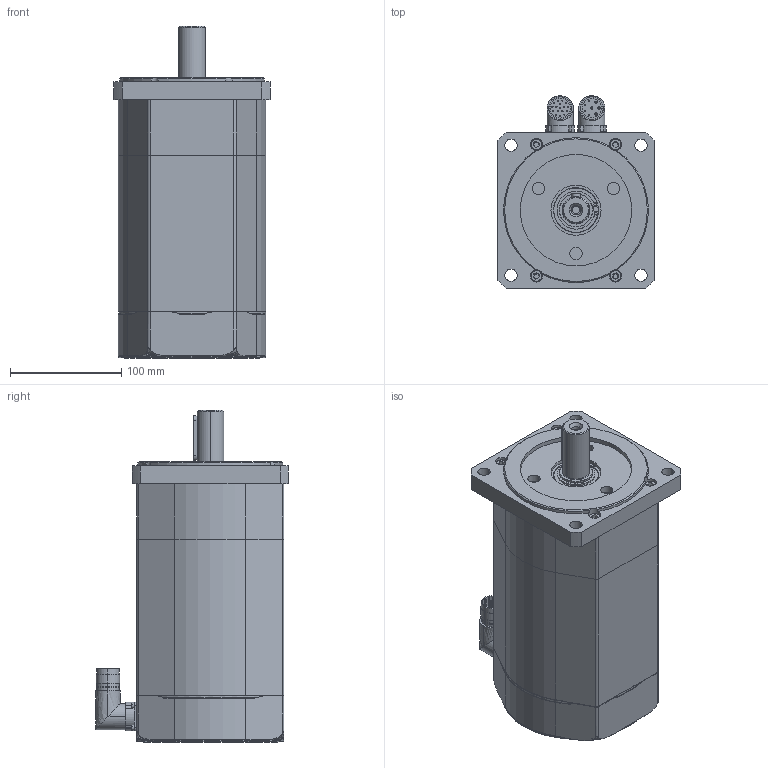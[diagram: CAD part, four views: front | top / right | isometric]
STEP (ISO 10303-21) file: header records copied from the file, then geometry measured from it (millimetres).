
FILE_DESCRIPTION (( 'STEP AP203' ), '1' );
FILE_NAME ('SSAX140XS_CF.STEP', '2015-09-10T13:51:16', ( 'Tecnico motori' ), ( '' ), 'SwSTEP 2.0', 'SolidWorks 2010', '' );
FILE_SCHEMA (( 'CONFIG_CONTROL_DESIGN' ));
Length unit declared in the file: millimetre
Products named in the file (1): SSAX140XS_CF
Bounding box: 140 x 173 x 297.85 mm (x, y, z)
Surface area: 186477.9 mm2 (no closed solid volume)
Topology: 0 solids, 31 shells, 461 faces, 1297 edges, 902 vertices
Faces by surface type: cylinder 214, plane 189, cone 28, torus 24, bspline 6
Entity records: 16099 total; most frequent: CARTESIAN_POINT 3741, DIRECTION 2770, ORIENTED_EDGE 2244, EDGE_CURVE 1297, AXIS2_PLACEMENT_3D 1089, VERTEX_POINT 902, CIRCLE 633, LINE 592
